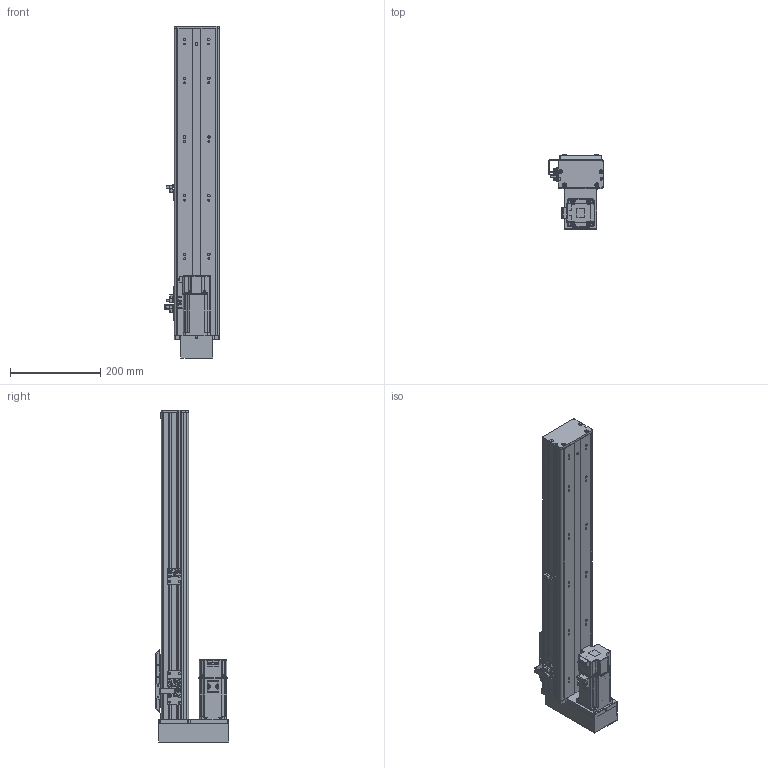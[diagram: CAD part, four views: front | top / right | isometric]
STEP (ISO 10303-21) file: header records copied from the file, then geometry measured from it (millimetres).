
FILE_DESCRIPTION (( 'STEP AP203' ), '1' );
FILE_NAME ('BOSW100-500-1610-1P-DM-M400W-O-S3（方程式2016）.step', '2020-10-10T06:43:37', ( '' ), ( '' ), 'SwSTEP 2.0', 'SolidWorks 2016', '' );
FILE_SCHEMA (( 'CONFIG_CONTROL_DESIGN' ));
Length unit declared in the file: millimetre
Products named in the file (14): 俋境嫖覜嘐隅啣; BOSW-100-1P-DM-500諦誧芞; S400W(SMA-L040); BOS100-DM鎮湛欶; BOSW&TW-100-詩湍揤沭(陔賦凳); BOSW-100-1P-DM-宽轨-钢带-500客户图纸; BOSW&TW-100-1P-賑雄釱欶; BOSW&TW-100-俋离覜茼え; BOSW-100-1P-DM-宽轨-侧板-500客户图纸; BOSW-100-綴裔啣; 放大器内置U型微型光电传感器PM-L65; 新结构AIMSW-100-1P-宽&高轨共用-滑动座上组件; BOSW100-500-1610-1P-DM-M400W-O-S3（方程式2016）; BOS-100-DM鎮湛假蚾啣
Assembly tree (19 placements, depth 2):
  BOSW100-500-1610-1P-DM-M400W-O-S3（方程式2016）
    BOSW-100-1P-DM-500諦誧芞
    BOSW-100-綴裔啣
    新结构AIMSW-100-1P-宽&高轨共用-滑动座上组件
    S400W(SMA-L040)
    BOSW&TW-100-詩湍揤沭(陔賦凳)  x2
    BOSW&TW-100-1P-賑雄釱欶
    BOSW&TW-100-俋离覜茼え
    俋境嫖覜嘐隅啣  x3
    放大器内置U型微型光电传感器PM-L65  x3
    BOSW-100-1P-DM-宽轨-侧板-500客户图纸  x2
    BOSW-100-1P-DM-宽轨-钢带-500客户图纸
    BOS100-DM鎮湛欶
    BOS-100-DM鎮湛假蚾啣
Bounding box: 120.9 x 164 x 736 mm (x, y, z)
Volume: 1715759.4 mm3; surface area: 815554.5 mm2
Topology: 19 solids, 19 shells, 2540 faces, 6698 edges, 4281 vertices
Faces by surface type: plane 1265, cylinder 799, bspline 271, cone 157, torus 36, sphere 12
Entity records: 69739 total; most frequent: CARTESIAN_POINT 20872, ORIENTED_EDGE 9952, DIRECTION 9628, EDGE_CURVE 4976, AXIS2_PLACEMENT_3D 3400, VERTEX_POINT 3183, VECTOR 2828, LINE 2828
